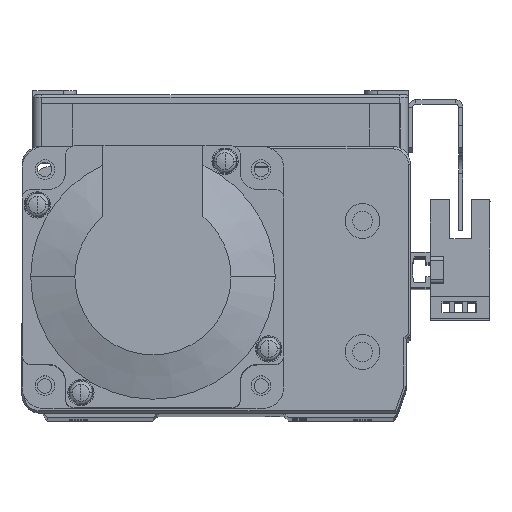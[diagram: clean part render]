
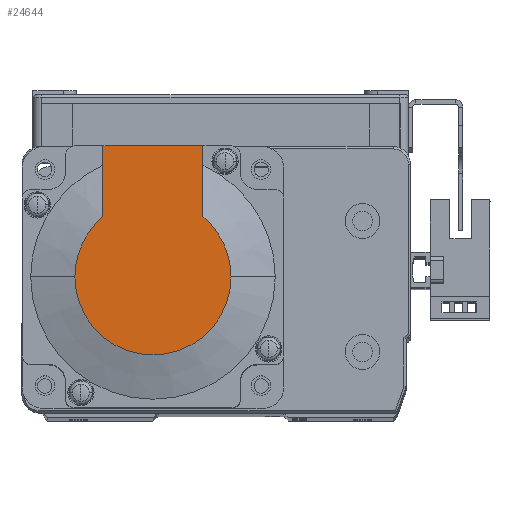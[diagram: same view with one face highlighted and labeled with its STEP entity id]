
A CAD part, top view. The second image highlights one B-rep face of the part: STEP entity #24644.
In plain terms, the highlighted planar face has unit normal (0, 0, 1) as drawn and (-1, 0, 0) by its records, which use the part's own axes.
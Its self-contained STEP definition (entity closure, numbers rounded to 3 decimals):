
#31 = CARTESIAN_POINT ( 'NONE',  ( -99., 30., 11.45 ) ) ;
#55 = CARTESIAN_POINT ( 'NONE',  ( -99., 30., -11.45 ) ) ;
#2679 = AXIS2_PLACEMENT_3D ( 'NONE', #14749, #14739, #14740 ) ;
#4754 = FACE_OUTER_BOUND ( 'NONE', #30720, .T. ) ;
#7359 = AXIS2_PLACEMENT_3D ( 'NONE', #13109, #13108, #13094 ) ;
#7440 = AXIS2_PLACEMENT_3D ( 'NONE', #44990, #44962, #44986 ) ;
#7528 = AXIS2_PLACEMENT_3D ( 'NONE', #45403, #45367, #45375 ) ;
#9417 = CARTESIAN_POINT ( 'NONE',  ( -99., 0., 11.45 ) ) ;
#9418 = DIRECTION ( 'NONE',  ( 0., -1., 0. ) ) ;
#9556 = DIRECTION ( 'NONE',  ( 0., 0., 1. ) ) ;
#9565 = CARTESIAN_POINT ( 'NONE',  ( -99., 30., 25. ) ) ;
#9566 = CARTESIAN_POINT ( 'NONE',  ( -99., -8.941, -11.45 ) ) ;
#9575 = DIRECTION ( 'NONE',  ( 0., -1., 0. ) ) ;
#10237 = VECTOR ( 'NONE', #9556, 1000. ) ;
#10240 = VECTOR ( 'NONE', #9575, 1000. ) ;
#10255 = LINE ( 'NONE', #9566, #10240 ) ;
#10293 = LINE ( 'NONE', #9565, #10237 ) ;
#13094 = DIRECTION ( 'NONE',  ( 0., 0., -1. ) ) ;
#13108 = DIRECTION ( 'NONE',  ( -1., 0., 0. ) ) ;
#13109 = CARTESIAN_POINT ( 'NONE',  ( -99., 0., 0. ) ) ;
#14721 = PLANE ( 'NONE',  #2679 ) ;
#14739 = DIRECTION ( 'NONE',  ( -1., 0., 0. ) ) ;
#14740 = DIRECTION ( 'NONE',  ( 0., 0., 1. ) ) ;
#14749 = CARTESIAN_POINT ( 'NONE',  ( -99., -8.941, 0. ) ) ;
#16563 = LINE ( 'NONE', #9417, #16575 ) ;
#16575 = VECTOR ( 'NONE', #9418, 1000. ) ;
#17657 = VERTEX_POINT ( 'NONE', #31 ) ;
#17691 = VERTEX_POINT ( 'NONE', #55 ) ;
#24644 = ADVANCED_FACE ( 'NONE', ( #4754 ), #14721, .T. ) ;
#26075 = EDGE_CURVE ( 'NONE', #17657, #28949, #16563, .T. ) ;
#26148 = EDGE_CURVE ( 'NONE', #17691, #30275, #10255, .T. ) ;
#26154 = EDGE_CURVE ( 'NONE', #17691, #17657, #10293, .T. ) ;
#27216 = EDGE_CURVE ( 'NONE', #29040, #28949, #42739, .T. ) ;
#27580 = EDGE_CURVE ( 'NONE', #28986, #29040, #43271, .T. ) ;
#27968 = EDGE_CURVE ( 'NONE', #30275, #28986, #43925, .T. ) ;
#28016 = ORIENTED_EDGE ( 'NONE', *, *, #26154, .F. ) ;
#28057 = ORIENTED_EDGE ( 'NONE', *, *, #27968, .T. ) ;
#28100 = ORIENTED_EDGE ( 'NONE', *, *, #26075, .F. ) ;
#28132 = ORIENTED_EDGE ( 'NONE', *, *, #27580, .T. ) ;
#28138 = ORIENTED_EDGE ( 'NONE', *, *, #26148, .T. ) ;
#28147 = ORIENTED_EDGE ( 'NONE', *, *, #27216, .T. ) ;
#28949 = VERTEX_POINT ( 'NONE', #45773 ) ;
#28986 = VERTEX_POINT ( 'NONE', #45782 ) ;
#29040 = VERTEX_POINT ( 'NONE', #45791 ) ;
#30275 = VERTEX_POINT ( 'NONE', #45959 ) ;
#30720 = EDGE_LOOP ( 'NONE', ( #28138, #28057, #28132, #28147, #28100, #28016 ) ) ;
#42739 = CIRCLE ( 'NONE', #7359, 17.881 ) ;
#43271 = CIRCLE ( 'NONE', #7440, 17.881 ) ;
#43925 = CIRCLE ( 'NONE', #7528, 17.881 ) ;
#44962 = DIRECTION ( 'NONE',  ( -1., 0., 0. ) ) ;
#44986 = DIRECTION ( 'NONE',  ( 0., 0., -1. ) ) ;
#44990 = CARTESIAN_POINT ( 'NONE',  ( -99., 0., 0. ) ) ;
#45367 = DIRECTION ( 'NONE',  ( -1., 0., 0. ) ) ;
#45375 = DIRECTION ( 'NONE',  ( 0., 0., -1. ) ) ;
#45403 = CARTESIAN_POINT ( 'NONE',  ( -99., 0., 0. ) ) ;
#45773 = CARTESIAN_POINT ( 'NONE',  ( -99., 13.735, 11.45 ) ) ;
#45782 = CARTESIAN_POINT ( 'NONE',  ( -99., 0., -17.881 ) ) ;
#45791 = CARTESIAN_POINT ( 'NONE',  ( -99., 0., 17.881 ) ) ;
#45959 = CARTESIAN_POINT ( 'NONE',  ( -99., 13.735, -11.45 ) ) ;
